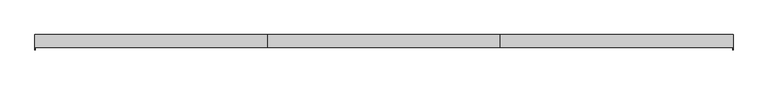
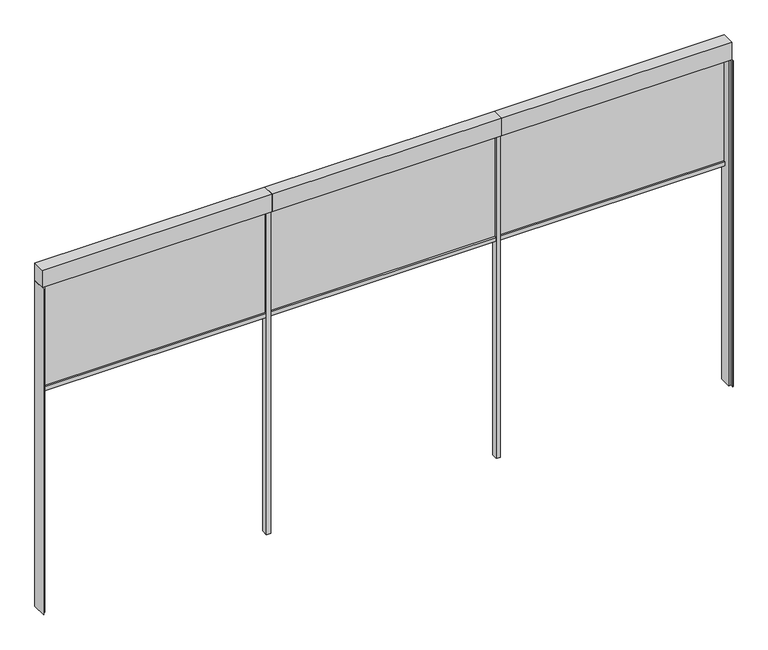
"""IFC4 building model written with IfcOpenShell, lengths in millimetres: proxy geometry, Renson_Fixscreen_Minimal_IM7B_With_CF : Recessed - Front of the window - Medium-CF - Access downwards - Fabric away from the window."""

from ifc_helpers import new_model, si_unit, frame, origin, place, context, project, spatial, polyline, outline, extrude, source, transform, mapped, element, save


def generic_models_c44278f1(model_context):
    return source(origin(), model_context, "Body", "SweptSolid", [
        extrude(outline(polyline([(4076.0, 85.0), (4101.0, 85.0), (4101.0, -45.0), (4098.0, -45.0), (4098.0, -20.0), (4076.0, -20.0), (4076.0, 85.0)])), frame((0.0, 0.0, 800.0), z_axis=(0.0, 0.0, 1.0), x_axis=(1.0, 0.0, 0.0)), (0.0, 0.0, 1.0), 3000.0),
        extrude(outline(polyline([(-1874.0, 85.0), (-1874.0, -20.0), (-1896.0, -20.0), (-1896.0, -45.0), (-1899.0, -45.0), (-1899.0, 85.0), (-1874.0, 85.0)])), frame((0.0, 0.0, 800.0), z_axis=(0.0, 0.0, 1.0), x_axis=(1.0, 0.0, 0.0)), (0.0, 0.0, 1.0), 3000.0),
        extrude(outline(polyline([(-1874.95, 49.0), (-1874.95, 52.0), (82.75, 52.0), (82.75, 49.0), (-1874.95, 49.0)])), frame((0.0, 0.0, 2812.5006852), z_axis=(0.0, 0.0, 1.0), x_axis=(1.0, 0.0, 0.0)), (0.0, 0.0, 1.0), 987.4993148),
        extrude(outline(polyline([(119.35, 49.0), (119.35, 52.0), (2082.75, 52.0), (2082.75, 49.0), (119.35, 49.0)])), frame((0.0, 0.0, 2812.5006852), z_axis=(0.0, 0.0, 1.0), x_axis=(1.0, 0.0, 0.0)), (0.0, 0.0, 1.0), 987.4993148),
        extrude(outline(polyline([(70.95, 2800.0), (30.45, 2800.0), (30.45, 2834.1156799), (47.85, 2835.0275753), (47.85, 2812.5006852), (53.55, 2812.5006852), (53.55, 2835.0275753), (70.95, 2834.1156799), (70.95, 2800.0)])), frame((-1874.95, 0.0, 0.0), z_axis=(1.0, 0.0, 0.0), x_axis=(0.0, 1.0, 0.0)), (0.0, 0.0, 1.0), 1957.7),
        extrude(outline(polyline([(70.95, 2800.0), (30.45, 2800.0), (30.45, 2834.1156799), (47.85, 2835.0275753), (47.85, 2812.5006852), (53.55, 2812.5006852), (53.55, 2835.0275753), (70.95, 2834.1156799), (70.95, 2800.0)])), frame((119.35, 0.0, 0.0), z_axis=(1.0, 0.0, 0.0), x_axis=(0.0, 1.0, 0.0)), (0.0, 0.0, 1.0), 1963.4),
        extrude(outline(polyline([(70.9955279, 2800.0), (30.4955279, 2800.0), (30.4955279, 2834.1156799), (47.8955279, 2835.0275753), (47.8955279, 2812.5006852), (53.5955279, 2812.5006852), (53.5955279, 2835.0275753), (70.9955279, 2834.1156799), (70.9955279, 2800.0)])), frame((2119.3, 0.0, 0.0), z_axis=(1.0, 0.0, 0.0), x_axis=(0.0, 1.0, 0.0)), (0.0, 0.0, 1.0), 1957.7),
        extrude(outline(polyline([(2119.3, 49.0), (2119.3, 52.0), (4077.0, 52.0), (4077.0, 49.0), (2119.3, 49.0)])), frame((0.0, 0.0, 2812.5006852), z_axis=(0.0, 0.0, 1.0), x_axis=(1.0, 0.0, 0.0)), (0.0, 0.0, 1.0), 987.4993148),
        extrude(outline(polyline([(2101.0, -25.0), (2101.0, 85.0), (4101.0, 85.0), (4101.0, -25.0), (2101.0, -25.0)])), frame((0.0, 0.0, 3800.0), z_axis=(0.0, 0.0, 1.0), x_axis=(1.0, 0.0, 0.0)), (0.0, 0.0, 1.0), 160.0),
        extrude(outline(polyline([(101.0, -25.0), (101.0, 85.0), (2101.0, 85.0), (2101.0, -25.0), (101.0, -25.0)])), frame((0.0, 0.0, 3800.0), z_axis=(0.0, 0.0, 1.0), x_axis=(1.0, 0.0, 0.0)), (0.0, 0.0, 1.0), 160.0),
        extrude(outline(polyline([(-1899.0, -25.0), (-1899.0, 85.0), (101.0, 85.0), (101.0, -25.0), (-1899.0, -25.0)])), frame((0.0, 0.0, 3800.0), z_axis=(0.0, 0.0, 1.0), x_axis=(1.0, 0.0, 0.0)), (0.0, 0.0, 1.0), 160.0),
        extrude(outline(polyline([(119.25, 85.0), (119.25, 28.75), (82.75, 28.75), (82.75, 85.0), (119.25, 85.0)])), frame((0.0, 0.0, 800.0), z_axis=(0.0, 0.0, 1.0), x_axis=(1.0, 0.0, 0.0)), (0.0, 0.0, 1.0), 3000.0),
        extrude(outline(polyline([(2119.25, 85.0), (2119.25, 28.75), (2082.75, 28.75), (2082.75, 85.0), (2119.25, 85.0)])), frame((0.0, 0.0, 800.0), z_axis=(0.0, 0.0, 1.0), x_axis=(1.0, 0.0, 0.0)), (0.0, 0.0, 1.0), 3000.0),
    ])


if __name__ == "__main__":
    model = new_model("IFC4")
    model_context = context("Model", 3, world=origin())
    ifc_project = project(units=[si_unit("LENGTHUNIT", "METRE", prefix="MILLI")], contexts=[model_context])
    site = spatial("IfcSite", under=ifc_project)
    building = spatial("IfcBuilding", under=site)
    placement = place(None, origin())
    generic_models_shape = generic_models_c44278f1(model_context)
    element("IfcBuildingElementProxy", 1, Name="Renson_Fixscreen_Minimal_IM7B_With_CF : Recessed - Front of the window - Medium-CF - Access downwards - Fabric away from the window", ObjectType="Renson_Fixscreen_Minimal_IM7B_With_CF : Recessed - Front of the window - Medium-CF - Access downwards - Fabric away from the window", at=placement, inside=building, context=model_context, shape_type="MappedRepresentation", body=[
        mapped(generic_models_shape, transform((0.0, 0.0, 0.0), x_axis=(1.0, 0.0, 0.0), y_axis=(0.0, 1.0, 0.0), z_axis=(0.0, 0.0, 1.0))),
    ])
    save(model, "model.ifc")
